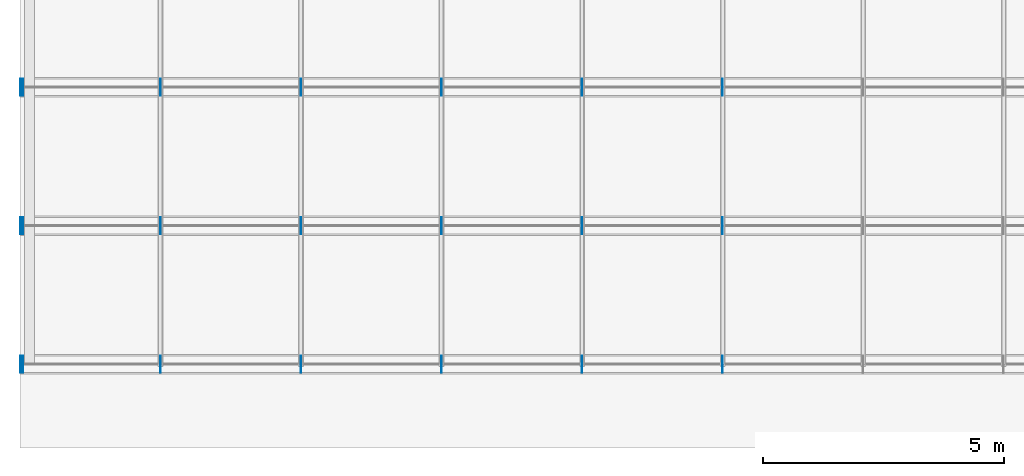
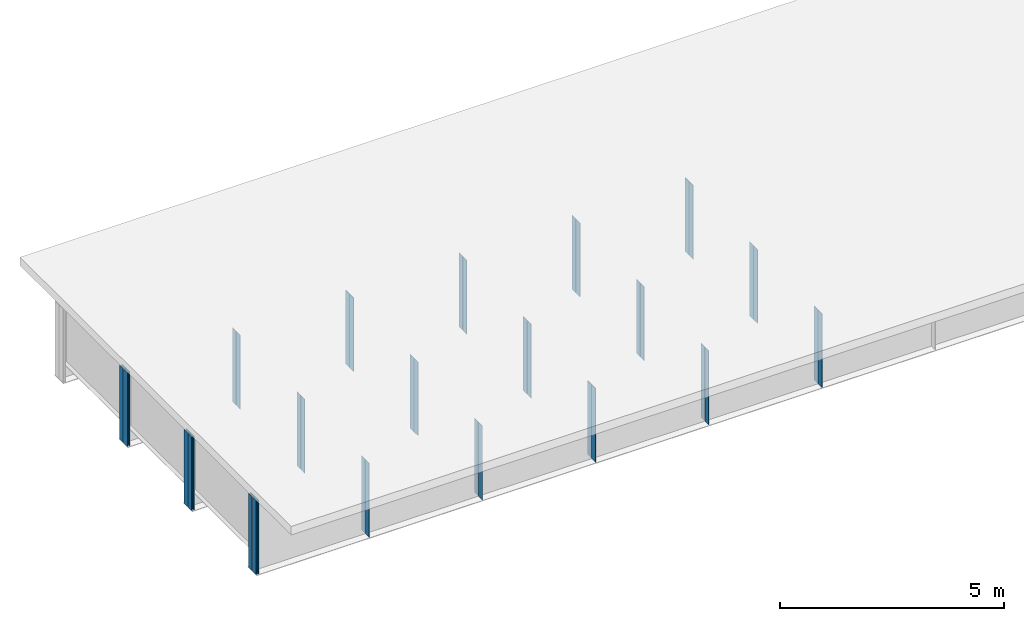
# One storey, part 3 of 13: 42 plates.
"""IFC4 building model written with IfcOpenShell, lengths in metres."""

from ifc_helpers import new_model, si_unit, frame, origin, origin_with_axes, origin_2d_with_axis, place, context, subcontext, project, spatial, rectangle, extrude, element, save


model = new_model("IFC4")

# Units and contexts
model_context = context("Model", 3, precision=1e-05, world=origin())
body_context = subcontext(model_context, "Body", "Model", "MODEL_VIEW")
ifc_project = project(units=[si_unit("LENGTHUNIT", "METRE"), si_unit("AREAUNIT", "SQUARE_METRE"), si_unit("VOLUMEUNIT", "CUBIC_METRE"), si_unit("PLANEANGLEUNIT", "RADIAN")], contexts=[model_context])

# Site, building, storey
site_placement = place(None, origin_with_axes())
site = spatial("IfcSite", under=ifc_project, at=site_placement, Name="Default Site")
building_placement = place(site_placement, origin_with_axes())
building = spatial("IfcBuilding", under=site, at=building_placement, Name="Bridge Structure")
storey_placement = place(building_placement, origin_with_axes())
storey = spatial("IfcBuildingStorey", under=building, at=storey_placement, Name="Superstructure")

# Plates
for number, where, z_axis, x_axis, name in (
    (1, (2.916, -4.2215, -1.006), (0.0, 0.0, 1.0), (1.0, 0.0, 0.0), "Intermediate Stiffener 1"),
    (2, (2.916, -4.4035, -1.006), (0.0, 0.0, 1.0), (1.0, 0.0, 0.0), "Intermediate Stiffener 1"),
    (3, (5.832, -4.2215, -1.006), (0.0, 0.0, 1.0), (1.0, 0.0, 0.0), "Intermediate Stiffener 1"),
    (4, (5.832, -4.4035, -1.006), (0.0, 0.0, 1.0), (1.0, 0.0, 0.0), "Intermediate Stiffener 1"),
    (5, (8.748, -4.2215, -1.006), (0.0, 0.0, 1.0), (1.0, 0.0, 0.0), "Intermediate Stiffener 1"),
    (6, (8.748, -4.4035, -1.006), (0.0, 0.0, 1.0), (1.0, 0.0, 0.0), "Intermediate Stiffener 1"),
    (7, (11.664, -4.2215, -1.006), (0.0, 0.0, 1.0), (1.0, 0.0, 0.0), "Intermediate Stiffener 1"),
    (8, (11.664, -4.4035, -1.006), (0.0, 0.0, 1.0), (1.0, 0.0, 0.0), "Intermediate Stiffener 1"),
    (9, (14.58, -4.2215, -1.006), (0.0, 0.0, 1.0), (1.0, 0.0, 0.0), "Intermediate Stiffener 1"),
    (10, (14.58, -4.4035, -1.006), (0.0, 0.0, 1.0), (1.0, 0.0, 0.0), "Intermediate Stiffener 1"),
):
    element("IfcPlate", number, at=place(storey_placement, frame(where, z_axis=z_axis, x_axis=x_axis)), inside=storey, Name=name, context=body_context, shape_type="SweptSolid", body=[
        extrude(rectangle(XDim=0.012, YDim=0.168, at=origin_2d_with_axis()), origin_with_axes(), (0.0, 0.0, 1.0), 2.012),
    ])
for number, where, z_axis, x_axis, name in (
    (11, (0.01, -4.2215, -1.006), (0.0, 0.0, 1.0), (1.0, 0.0, 0.0), "End Stiffener 1"),
    (12, (0.01, -4.4035, -1.006), (0.0, 0.0, 1.0), (1.0, 0.0, 0.0), "End Stiffener 1"),
    (13, (0.06, -4.2215, -1.006), (0.0, 0.0, 1.0), (1.0, 0.0, 0.0), "End Stiffener 1"),
    (14, (0.06, -4.4035, -1.006), (0.0, 0.0, 1.0), (1.0, 0.0, 0.0), "End Stiffener 1"),
):
    element("IfcPlate", number, at=place(storey_placement, frame(where, z_axis=z_axis, x_axis=x_axis)), inside=storey, Name=name, context=body_context, shape_type="SweptSolid", body=[
        extrude(rectangle(XDim=0.02, YDim=0.168, at=origin_2d_with_axis()), origin_with_axes(), (0.0, 0.0, 1.0), 2.012),
    ])
for number, where, z_axis, x_axis, name in (
    (15, (2.916, -1.3465, -1.006), (0.0, 0.0, 1.0), (1.0, 0.0, 0.0), "Intermediate Stiffener 2"),
    (16, (2.916, -1.5285, -1.006), (0.0, 0.0, 1.0), (1.0, 0.0, 0.0), "Intermediate Stiffener 2"),
    (17, (5.832, -1.3465, -1.006), (0.0, 0.0, 1.0), (1.0, 0.0, 0.0), "Intermediate Stiffener 2"),
    (18, (5.832, -1.5285, -1.006), (0.0, 0.0, 1.0), (1.0, 0.0, 0.0), "Intermediate Stiffener 2"),
    (19, (8.748, -1.3465, -1.006), (0.0, 0.0, 1.0), (1.0, 0.0, 0.0), "Intermediate Stiffener 2"),
    (20, (8.748, -1.5285, -1.006), (0.0, 0.0, 1.0), (1.0, 0.0, 0.0), "Intermediate Stiffener 2"),
    (21, (11.664, -1.3465, -1.006), (0.0, 0.0, 1.0), (1.0, 0.0, 0.0), "Intermediate Stiffener 2"),
    (22, (11.664, -1.5285, -1.006), (0.0, 0.0, 1.0), (1.0, 0.0, 0.0), "Intermediate Stiffener 2"),
    (23, (14.58, -1.3465, -1.006), (0.0, 0.0, 1.0), (1.0, 0.0, 0.0), "Intermediate Stiffener 2"),
    (24, (14.58, -1.5285, -1.006), (0.0, 0.0, 1.0), (1.0, 0.0, 0.0), "Intermediate Stiffener 2"),
):
    element("IfcPlate", number, at=place(storey_placement, frame(where, z_axis=z_axis, x_axis=x_axis)), inside=storey, Name=name, context=body_context, shape_type="SweptSolid", body=[
        extrude(rectangle(XDim=0.012, YDim=0.168, at=origin_2d_with_axis()), origin_with_axes(), (0.0, 0.0, 1.0), 2.012),
    ])
for number, where, z_axis, x_axis, name in (
    (25, (0.01, -1.3465, -1.006), (0.0, 0.0, 1.0), (1.0, 0.0, 0.0), "End Stiffener 2"),
    (26, (0.01, -1.5285, -1.006), (0.0, 0.0, 1.0), (1.0, 0.0, 0.0), "End Stiffener 2"),
    (27, (0.06, -1.3465, -1.006), (0.0, 0.0, 1.0), (1.0, 0.0, 0.0), "End Stiffener 2"),
    (28, (0.06, -1.5285, -1.006), (0.0, 0.0, 1.0), (1.0, 0.0, 0.0), "End Stiffener 2"),
):
    element("IfcPlate", number, at=place(storey_placement, frame(where, z_axis=z_axis, x_axis=x_axis)), inside=storey, Name=name, context=body_context, shape_type="SweptSolid", body=[
        extrude(rectangle(XDim=0.02, YDim=0.168, at=origin_2d_with_axis()), origin_with_axes(), (0.0, 0.0, 1.0), 2.012),
    ])
for number, where, z_axis, x_axis, name in (
    (29, (2.916, 1.5285, -1.006), (0.0, 0.0, 1.0), (1.0, 0.0, 0.0), "Intermediate Stiffener 3"),
    (30, (2.916, 1.3465, -1.006), (0.0, 0.0, 1.0), (1.0, 0.0, 0.0), "Intermediate Stiffener 3"),
    (31, (5.832, 1.5285, -1.006), (0.0, 0.0, 1.0), (1.0, 0.0, 0.0), "Intermediate Stiffener 3"),
    (32, (5.832, 1.3465, -1.006), (0.0, 0.0, 1.0), (1.0, 0.0, 0.0), "Intermediate Stiffener 3"),
    (33, (8.748, 1.5285, -1.006), (0.0, 0.0, 1.0), (1.0, 0.0, 0.0), "Intermediate Stiffener 3"),
    (34, (8.748, 1.3465, -1.006), (0.0, 0.0, 1.0), (1.0, 0.0, 0.0), "Intermediate Stiffener 3"),
    (35, (11.664, 1.5285, -1.006), (0.0, 0.0, 1.0), (1.0, 0.0, 0.0), "Intermediate Stiffener 3"),
    (36, (11.664, 1.3465, -1.006), (0.0, 0.0, 1.0), (1.0, 0.0, 0.0), "Intermediate Stiffener 3"),
    (37, (14.58, 1.5285, -1.006), (0.0, 0.0, 1.0), (1.0, 0.0, 0.0), "Intermediate Stiffener 3"),
    (38, (14.58, 1.3465, -1.006), (0.0, 0.0, 1.0), (1.0, 0.0, 0.0), "Intermediate Stiffener 3"),
):
    element("IfcPlate", number, at=place(storey_placement, frame(where, z_axis=z_axis, x_axis=x_axis)), inside=storey, Name=name, context=body_context, shape_type="SweptSolid", body=[
        extrude(rectangle(XDim=0.012, YDim=0.168, at=origin_2d_with_axis()), origin_with_axes(), (0.0, 0.0, 1.0), 2.012),
    ])
for number, where, z_axis, x_axis, name in (
    (39, (0.01, 1.5285, -1.006), (0.0, 0.0, 1.0), (1.0, 0.0, 0.0), "End Stiffener 3"),
    (40, (0.01, 1.3465, -1.006), (0.0, 0.0, 1.0), (1.0, 0.0, 0.0), "End Stiffener 3"),
    (41, (0.06, 1.5285, -1.006), (0.0, 0.0, 1.0), (1.0, 0.0, 0.0), "End Stiffener 3"),
    (42, (0.06, 1.3465, -1.006), (0.0, 0.0, 1.0), (1.0, 0.0, 0.0), "End Stiffener 3"),
):
    element("IfcPlate", number, at=place(storey_placement, frame(where, z_axis=z_axis, x_axis=x_axis)), inside=storey, Name=name, context=body_context, shape_type="SweptSolid", body=[
        extrude(rectangle(XDim=0.02, YDim=0.168, at=origin_2d_with_axis()), origin_with_axes(), (0.0, 0.0, 1.0), 2.012),
    ])

save(model, "model.ifc")
